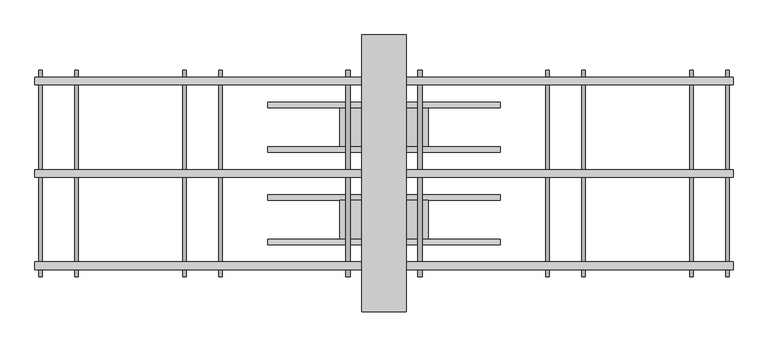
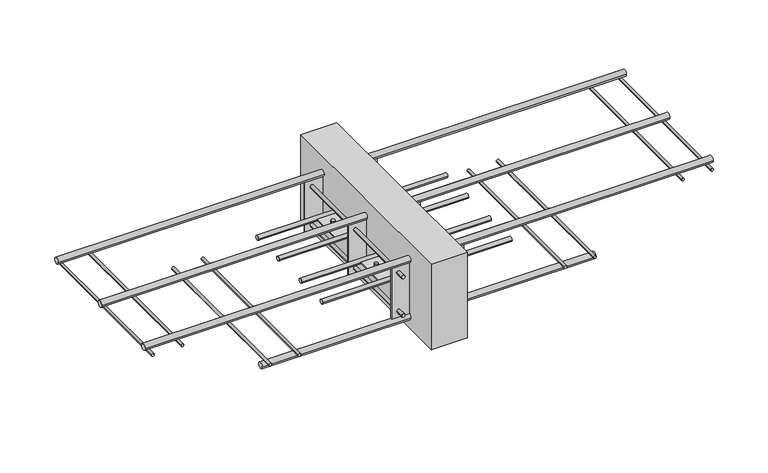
"""IFC4 building model written with IfcOpenShell, lengths in millimetres: fastener geometry, ACINOXplus_Typenreihe_K : KPC+ S2."""

from ifc_helpers import new_model, si_unit, point, frame, frame_2d, origin, place, context, project, spatial, polyline, circle_curve, trimmed, segment, composite_curve, outline, extrude, source, transform, mapped, element, save
from ifc_brep_helpers import plane_surface, cylinder_surface, advanced_brep


def fastener_ad586128(model_context):
    return source(origin(), model_context, "Body", "SolidModel", [
        extrude(outline(composite_curve([segment(trimmed(circle_curve(frame_2d((-123.3333333, -105.0)), 5.0), [point((-128.3333333, -105.0))], [point((-118.3333333, -105.0))], False, "CARTESIAN"), True, "CONTINUOUS"), segment(trimmed(circle_curve(frame_2d((-123.3333333, -105.0)), 5.0), [point((-118.3333333, -105.0))], [point((-128.3333333, -105.0))], False, "CARTESIAN"), True, "CONTINUOUS")], self_intersect=False)), frame((-210.0, 0.0, 0.0), z_axis=(1.0, 0.0, 0.0), x_axis=(0.0, 1.0, 0.0)), (0.0, 0.0, 1.0), 420.0),
        extrude(outline(composite_curve([segment(trimmed(circle_curve(frame_2d((-43.3333333, -105.0)), 5.0), [point((-48.3333333, -105.0))], [point((-38.3333333, -105.0))], False, "CARTESIAN"), True, "CONTINUOUS"), segment(trimmed(circle_curve(frame_2d((-43.3333333, -105.0)), 5.0), [point((-38.3333333, -105.0))], [point((-48.3333333, -105.0))], False, "CARTESIAN"), True, "CONTINUOUS")], self_intersect=False)), frame((-210.0, 0.0, 0.0), z_axis=(1.0, 0.0, 0.0), x_axis=(0.0, 1.0, 0.0)), (0.0, 0.0, 1.0), 420.0),
        advanced_brep(
        [(-69.0, -83.3333333, -90.0), (-61.0, -83.3333333, -90.0), (61.0, -83.3333333, -90.0), (69.0, -83.3333333, -90.0), (-69.0, -83.3333333, -120.0), (-61.0, -83.3333333, -120.0), (61.0, -83.3333333, -120.0), (69.0, -83.3333333, -120.0), (-69.0, -83.3333333, -103.5), (-61.0, -83.3333333, -103.5), (-61.0, -83.3333333, -106.5), (-69.0, -83.3333333, -106.5), (61.0, -83.3333333, -103.5), (69.0, -83.3333333, -103.5), (69.0, -83.3333333, -106.5), (61.0, -83.3333333, -106.5), (80.0, -48.3333333, -103.5), (-80.0, -48.3333333, -103.5), (-80.0, -118.3333333, -103.5), (80.0, -118.3333333, -103.5), (80.0, -48.3333333, -106.5), (80.0, -118.3333333, -106.5), (-80.0, -118.3333333, -106.5), (-80.0, -48.3333333, -106.5)],
        [
            (0, 1, circle_curve(frame((-65.0, -83.3333333, -90.0), z_axis=(0.0, 0.0, 1.0), x_axis=(1.0, 0.0, 0.0)), 4.0)),
            (1, 0, circle_curve(frame((-65.0, -83.3333333, -90.0), z_axis=(0.0, 0.0, 1.0), x_axis=(1.0, 0.0, 0.0)), 4.0)),
            (2, 3, circle_curve(frame((65.0, -83.3333333, -90.0), z_axis=(0.0, 0.0, 1.0), x_axis=(1.0, 0.0, 0.0)), 4.0)),
            (3, 2, circle_curve(frame((65.0, -83.3333333, -90.0), z_axis=(0.0, 0.0, 1.0), x_axis=(1.0, 0.0, 0.0)), 4.0)),
            (4, 5, circle_curve(frame((-65.0, -83.3333333, -120.0), z_axis=(0.0, 0.0, -1.0), x_axis=(1.0, 0.0, 0.0)), 4.0)),
            (5, 4, circle_curve(frame((-65.0, -83.3333333, -120.0), z_axis=(0.0, 0.0, -1.0), x_axis=(1.0, 0.0, 0.0)), 4.0)),
            (6, 7, circle_curve(frame((65.0, -83.3333333, -120.0), z_axis=(0.0, 0.0, -1.0), x_axis=(1.0, 0.0, 0.0)), 4.0)),
            (7, 6, circle_curve(frame((65.0, -83.3333333, -120.0), z_axis=(0.0, 0.0, -1.0), x_axis=(1.0, 0.0, 0.0)), 4.0)),
            (0, 8),
            (8, 9, circle_curve(frame((-65.0, -83.3333333, -103.5), z_axis=(0.0, 0.0, 1.0), x_axis=(1.0, 0.0, 0.0)), 4.0)),
            (9, 1),
            (5, 10),
            (10, 11, circle_curve(frame((-65.0, -83.3333333, -106.5), z_axis=(0.0, 0.0, -1.0), x_axis=(1.0, 0.0, 0.0)), 4.0)),
            (11, 4),
            (9, 8, circle_curve(frame((-65.0, -83.3333333, -103.5), z_axis=(0.0, 0.0, 1.0), x_axis=(1.0, 0.0, 0.0)), 4.0)),
            (11, 10, circle_curve(frame((-65.0, -83.3333333, -106.5), z_axis=(0.0, 0.0, -1.0), x_axis=(1.0, 0.0, 0.0)), 4.0)),
            (2, 12),
            (12, 13, circle_curve(frame((65.0, -83.3333333, -103.5), z_axis=(0.0, 0.0, 1.0), x_axis=(1.0, 0.0, 0.0)), 4.0)),
            (13, 3),
            (7, 14),
            (14, 15, circle_curve(frame((65.0, -83.3333333, -106.5), z_axis=(0.0, 0.0, -1.0), x_axis=(1.0, 0.0, 0.0)), 4.0)),
            (15, 6),
            (13, 12, circle_curve(frame((65.0, -83.3333333, -103.5), z_axis=(0.0, 0.0, 1.0), x_axis=(1.0, 0.0, 0.0)), 4.0)),
            (15, 14, circle_curve(frame((65.0, -83.3333333, -106.5), z_axis=(0.0, 0.0, -1.0), x_axis=(1.0, 0.0, 0.0)), 4.0)),
            (16, 17),
            (17, 18),
            (18, 19),
            (19, 16),
            (20, 21),
            (21, 22),
            (22, 23),
            (23, 20),
            (16, 20),
            (23, 17),
            (22, 18),
            (21, 19),
        ],
        [
            plane_surface(frame((-61.0, -83.3333333, -90.0), z_axis=(0.0, 0.0, 1.0), x_axis=(0.0, 1.0, 0.0))),
            plane_surface(frame((-61.0, -83.3333333, -120.0), z_axis=(0.0, 0.0, -1.0), x_axis=(0.0, -1.0, 0.0))),
            cylinder_surface(frame((-65.0, -83.3333333, -120.0), z_axis=(0.0, 0.0, 1.0), x_axis=(1.0, 0.0, 0.0)), 4.0),
            cylinder_surface(frame((65.0, -83.3333333, -105.0), z_axis=(0.0, 0.0, 1.0), x_axis=(1.0, 0.0, 0.0)), 4.0),
            plane_surface(frame((-80.0, -48.3333333, -103.5), z_axis=(0.0, 0.0, 1.0), x_axis=(-1.0, 0.0, 0.0))),
            plane_surface(frame((-80.0, -48.3333333, -106.5), z_axis=(0.0, 0.0, -1.0), x_axis=(1.0, 0.0, 0.0))),
            plane_surface(frame((80.0, -48.3333333, -103.5), z_axis=(0.0, 1.0, 0.0), x_axis=(0.0, 0.0, -1.0))),
            plane_surface(frame((-80.0, -48.3333333, -103.5), z_axis=(-1.0, 0.0, 0.0), x_axis=(0.0, 0.0, -1.0))),
            plane_surface(frame((-80.0, -118.3333333, -103.5), z_axis=(0.0, -1.0, 0.0), x_axis=(0.0, 0.0, -1.0))),
            plane_surface(frame((80.0, -118.3333333, -103.5), z_axis=(1.0, 0.0, 0.0), x_axis=(0.0, 0.0, -1.0))),
        ],
        [
            (0, [[1, 2]]),
            (0, [[3, 4]]),
            (1, [[5, 6]]),
            (1, [[7, 8]]),
            (2, [[-1, 9, 10, 11]]),
            (2, [[-6, 12, 13, 14]]),
            (2, [[-2, -11, 15, -9]]),
            (2, [[-5, -14, 16, -12]]),
            (3, [[-3, 17, 18, 19]]),
            (3, [[-8, 20, 21, 22]]),
            (3, [[-4, -19, 23, -17]]),
            (3, [[-7, -22, 24, -20]]),
            (4, [[25, 26, 27, 28], [-10, -15], [-18, -23]]),
            (5, [[29, 30, 31, 32], [-13, -16], [-21, -24]]),
            (6, [[-25, 33, -32, 34]]),
            (7, [[-26, -34, -31, 35]]),
            (8, [[-27, -35, -30, 36]]),
            (9, [[-28, -36, -29, -33]]),
        ],
    ),
        extrude(outline(composite_curve([segment(trimmed(circle_curve(frame_2d((43.3333333, -105.0)), 5.0), [point((38.3333333, -105.0))], [point((48.3333333, -105.0))], False, "CARTESIAN"), True, "CONTINUOUS"), segment(trimmed(circle_curve(frame_2d((43.3333333, -105.0)), 5.0), [point((48.3333333, -105.0))], [point((38.3333333, -105.0))], False, "CARTESIAN"), True, "CONTINUOUS")], self_intersect=False)), frame((-210.0, 0.0, 0.0), z_axis=(1.0, 0.0, 0.0), x_axis=(0.0, 1.0, 0.0)), (0.0, 0.0, 1.0), 420.0),
        extrude(outline(composite_curve([segment(trimmed(circle_curve(frame_2d((123.3333333, -105.0)), 5.0), [point((118.3333333, -105.0))], [point((128.3333333, -105.0))], False, "CARTESIAN"), True, "CONTINUOUS"), segment(trimmed(circle_curve(frame_2d((123.3333333, -105.0)), 5.0), [point((128.3333333, -105.0))], [point((118.3333333, -105.0))], False, "CARTESIAN"), True, "CONTINUOUS")], self_intersect=False)), frame((-210.0, 0.0, 0.0), z_axis=(1.0, 0.0, 0.0), x_axis=(0.0, 1.0, 0.0)), (0.0, 0.0, 1.0), 420.0),
        advanced_brep(
        [(-69.0, 83.3333333, -90.0), (-61.0, 83.3333333, -90.0), (61.0, 83.3333333, -90.0), (69.0, 83.3333333, -90.0), (-69.0, 83.3333333, -120.0), (-61.0, 83.3333333, -120.0), (61.0, 83.3333333, -120.0), (69.0, 83.3333333, -120.0), (-69.0, 83.3333333, -103.5), (-61.0, 83.3333333, -103.5), (-61.0, 83.3333333, -106.5), (-69.0, 83.3333333, -106.5), (61.0, 83.3333333, -103.5), (69.0, 83.3333333, -103.5), (69.0, 83.3333333, -106.5), (61.0, 83.3333333, -106.5), (80.0, 118.3333333, -103.5), (-80.0, 118.3333333, -103.5), (-80.0, 48.3333333, -103.5), (80.0, 48.3333333, -103.5), (80.0, 118.3333333, -106.5), (80.0, 48.3333333, -106.5), (-80.0, 48.3333333, -106.5), (-80.0, 118.3333333, -106.5)],
        [
            (0, 1, circle_curve(frame((-65.0, 83.3333333, -90.0), z_axis=(0.0, 0.0, 1.0), x_axis=(1.0, 0.0, 0.0)), 4.0)),
            (1, 0, circle_curve(frame((-65.0, 83.3333333, -90.0), z_axis=(0.0, 0.0, 1.0), x_axis=(1.0, 0.0, 0.0)), 4.0)),
            (2, 3, circle_curve(frame((65.0, 83.3333333, -90.0), z_axis=(0.0, 0.0, 1.0), x_axis=(1.0, 0.0, 0.0)), 4.0)),
            (3, 2, circle_curve(frame((65.0, 83.3333333, -90.0), z_axis=(0.0, 0.0, 1.0), x_axis=(1.0, 0.0, 0.0)), 4.0)),
            (4, 5, circle_curve(frame((-65.0, 83.3333333, -120.0), z_axis=(0.0, 0.0, -1.0), x_axis=(1.0, 0.0, 0.0)), 4.0)),
            (5, 4, circle_curve(frame((-65.0, 83.3333333, -120.0), z_axis=(0.0, 0.0, -1.0), x_axis=(1.0, 0.0, 0.0)), 4.0)),
            (6, 7, circle_curve(frame((65.0, 83.3333333, -120.0), z_axis=(0.0, 0.0, -1.0), x_axis=(1.0, 0.0, 0.0)), 4.0)),
            (7, 6, circle_curve(frame((65.0, 83.3333333, -120.0), z_axis=(0.0, 0.0, -1.0), x_axis=(1.0, 0.0, 0.0)), 4.0)),
            (0, 8),
            (8, 9, circle_curve(frame((-65.0, 83.3333333, -103.5), z_axis=(0.0, 0.0, 1.0), x_axis=(1.0, 0.0, 0.0)), 4.0)),
            (9, 1),
            (5, 10),
            (10, 11, circle_curve(frame((-65.0, 83.3333333, -106.5), z_axis=(0.0, 0.0, -1.0), x_axis=(1.0, 0.0, 0.0)), 4.0)),
            (11, 4),
            (9, 8, circle_curve(frame((-65.0, 83.3333333, -103.5), z_axis=(0.0, 0.0, 1.0), x_axis=(1.0, 0.0, 0.0)), 4.0)),
            (11, 10, circle_curve(frame((-65.0, 83.3333333, -106.5), z_axis=(0.0, 0.0, -1.0), x_axis=(1.0, 0.0, 0.0)), 4.0)),
            (2, 12),
            (12, 13, circle_curve(frame((65.0, 83.3333333, -103.5), z_axis=(0.0, 0.0, 1.0), x_axis=(1.0, 0.0, 0.0)), 4.0)),
            (13, 3),
            (7, 14),
            (14, 15, circle_curve(frame((65.0, 83.3333333, -106.5), z_axis=(0.0, 0.0, -1.0), x_axis=(1.0, 0.0, 0.0)), 4.0)),
            (15, 6),
            (13, 12, circle_curve(frame((65.0, 83.3333333, -103.5), z_axis=(0.0, 0.0, 1.0), x_axis=(1.0, 0.0, 0.0)), 4.0)),
            (15, 14, circle_curve(frame((65.0, 83.3333333, -106.5), z_axis=(0.0, 0.0, -1.0), x_axis=(1.0, 0.0, 0.0)), 4.0)),
            (16, 17),
            (17, 18),
            (18, 19),
            (19, 16),
            (20, 21),
            (21, 22),
            (22, 23),
            (23, 20),
            (16, 20),
            (23, 17),
            (22, 18),
            (21, 19),
        ],
        [
            plane_surface(frame((-61.0, 83.3333333, -90.0), z_axis=(0.0, 0.0, 1.0), x_axis=(0.0, 1.0, 0.0))),
            plane_surface(frame((-61.0, 83.3333333, -120.0), z_axis=(0.0, 0.0, -1.0), x_axis=(0.0, -1.0, 0.0))),
            cylinder_surface(frame((-65.0, 83.3333333, -120.0), z_axis=(0.0, 0.0, 1.0), x_axis=(1.0, 0.0, 0.0)), 4.0),
            cylinder_surface(frame((65.0, 83.3333333, -105.0), z_axis=(0.0, 0.0, 1.0), x_axis=(1.0, 0.0, 0.0)), 4.0),
            plane_surface(frame((-80.0, 118.3333333, -103.5), z_axis=(0.0, 0.0, 1.0), x_axis=(-1.0, 0.0, 0.0))),
            plane_surface(frame((-80.0, 118.3333333, -106.5), z_axis=(0.0, 0.0, -1.0), x_axis=(1.0, 0.0, 0.0))),
            plane_surface(frame((80.0, 118.3333333, -103.5), z_axis=(0.0, 1.0, 0.0), x_axis=(0.0, 0.0, -1.0))),
            plane_surface(frame((-80.0, 118.3333333, -103.5), z_axis=(-1.0, 0.0, 0.0), x_axis=(0.0, 0.0, -1.0))),
            plane_surface(frame((-80.0, 48.3333333, -103.5), z_axis=(0.0, -1.0, 0.0), x_axis=(0.0, 0.0, -1.0))),
            plane_surface(frame((80.0, 48.3333333, -103.5), z_axis=(1.0, 0.0, 0.0), x_axis=(0.0, 0.0, -1.0))),
        ],
        [
            (0, [[1, 2]]),
            (0, [[3, 4]]),
            (1, [[5, 6]]),
            (1, [[7, 8]]),
            (2, [[-1, 9, 10, 11]]),
            (2, [[-6, 12, 13, 14]]),
            (2, [[-2, -11, 15, -9]]),
            (2, [[-5, -14, 16, -12]]),
            (3, [[-3, 17, 18, 19]]),
            (3, [[-8, 20, 21, 22]]),
            (3, [[-4, -19, 23, -17]]),
            (3, [[-7, -22, 24, -20]]),
            (4, [[25, 26, 27, 28], [-10, -15], [-18, -23]]),
            (5, [[29, 30, 31, 32], [-13, -16], [-21, -24]]),
            (6, [[-25, 33, -32, 34]]),
            (7, [[-26, -34, -31, 35]]),
            (8, [[-27, -35, -30, 36]]),
            (9, [[-28, -36, -29, -33]]),
        ],
    ),
        extrude(outline(polyline([(40.0, 250.0), (40.0, -250.0), (-40.0, -250.0), (-40.0, 250.0), (40.0, 250.0)])), frame((0.0, 0.0, -200.0), z_axis=(0.0, 0.0, 1.0), x_axis=(1.0, 0.0, 0.0)), (0.0, 0.0, 1.0), 200.0),
        extrude(outline(polyline([(80.0, 1.5), (80.0, -1.5), (-80.0, -1.5), (-80.0, 1.5), (80.0, 1.5)])), frame((0.0, 0.0, -165.0), z_axis=(0.0, 0.0, 1.0), x_axis=(1.0, 0.0, 0.0)), (0.0, 0.0, 1.0), 120.0),
        extrude(outline(polyline([(80.0, -165.1666667), (80.0, -168.1666667), (-80.0, -168.1666667), (-80.0, -165.1666667), (80.0, -165.1666667)])), frame((0.0, 0.0, -165.0), z_axis=(0.0, 0.0, 1.0), x_axis=(1.0, 0.0, 0.0)), (0.0, 0.0, 1.0), 120.0),
        extrude(outline(polyline([(80.0, 168.1666667), (80.0, 165.1666667), (-80.0, 165.1666667), (-80.0, 168.1666667), (80.0, 168.1666667)])), frame((0.0, 0.0, -165.0), z_axis=(0.0, 0.0, 1.0), x_axis=(1.0, 0.0, 0.0)), (0.0, 0.0, 1.0), 120.0),
        extrude(outline(composite_curve([segment(trimmed(circle_curve(frame_2d((-150.0, -65.0)), 4.0), [point((-150.0, -69.0))], [point((-150.0, -61.0))], False, "CARTESIAN"), True, "CONTINUOUS"), segment(trimmed(circle_curve(frame_2d((-150.0, -65.0)), 4.0), [point((-150.0, -61.0))], [point((-150.0, -69.0))], False, "CARTESIAN"), True, "CONTINUOUS")], self_intersect=False)), frame((0.0, 168.1666667, 0.0), z_axis=(0.0, 1.0, 0.0), x_axis=(0.0, 0.0, 1.0)), (0.0, 0.0, 1.0), 18.5),
        extrude(outline(composite_curve([segment(trimmed(circle_curve(frame_2d((-150.0, -65.0)), 4.0), [point((-150.0, -61.0))], [point((-150.0, -69.0))], False, "CARTESIAN"), True, "CONTINUOUS"), segment(trimmed(circle_curve(frame_2d((-150.0, -65.0)), 4.0), [point((-150.0, -69.0))], [point((-150.0, -61.0))], False, "CARTESIAN"), True, "CONTINUOUS")], self_intersect=False)), frame((0.0, -186.6666667, 0.0), z_axis=(0.0, 1.0, 0.0), x_axis=(0.0, 0.0, 1.0)), (0.0, 0.0, 1.0), 18.5),
        extrude(outline(composite_curve([segment(trimmed(circle_curve(frame_2d((-150.0, -65.0)), 4.0), [point((-150.0, -69.0))], [point((-150.0, -61.0))], False, "CARTESIAN"), True, "CONTINUOUS"), segment(trimmed(circle_curve(frame_2d((-150.0, -65.0)), 4.0), [point((-150.0, -61.0))], [point((-150.0, -69.0))], False, "CARTESIAN"), True, "CONTINUOUS")], self_intersect=False)), frame((0.0, -165.1666667, 0.0), z_axis=(0.0, 1.0, 0.0), x_axis=(0.0, 0.0, 1.0)), (0.0, 0.0, 1.0), 163.6666667),
        extrude(outline(composite_curve([segment(trimmed(circle_curve(frame_2d((-150.0, -65.0)), 4.0), [point((-150.0, -69.0))], [point((-150.0, -61.0))], False, "CARTESIAN"), True, "CONTINUOUS"), segment(trimmed(circle_curve(frame_2d((-150.0, -65.0)), 4.0), [point((-150.0, -61.0))], [point((-150.0, -69.0))], False, "CARTESIAN"), True, "CONTINUOUS")], self_intersect=False)), frame((0.0, 1.5, 0.0), z_axis=(0.0, 1.0, 0.0), x_axis=(0.0, 0.0, 1.0)), (0.0, 0.0, 1.0), 163.6666667),
        extrude(outline(composite_curve([segment(trimmed(circle_curve(frame_2d((-150.0, 65.0)), 4.0), [point((-150.0, 61.0))], [point((-150.0, 69.0))], False, "CARTESIAN"), True, "CONTINUOUS"), segment(trimmed(circle_curve(frame_2d((-150.0, 65.0)), 4.0), [point((-150.0, 69.0))], [point((-150.0, 61.0))], False, "CARTESIAN"), True, "CONTINUOUS")], self_intersect=False)), frame((0.0, 168.1666667, 0.0), z_axis=(0.0, 1.0, 0.0), x_axis=(0.0, 0.0, 1.0)), (0.0, 0.0, 1.0), 18.5),
        extrude(outline(composite_curve([segment(trimmed(circle_curve(frame_2d((-150.0, 65.0)), 4.0), [point((-150.0, 69.0))], [point((-150.0, 61.0))], False, "CARTESIAN"), True, "CONTINUOUS"), segment(trimmed(circle_curve(frame_2d((-150.0, 65.0)), 4.0), [point((-150.0, 61.0))], [point((-150.0, 69.0))], False, "CARTESIAN"), True, "CONTINUOUS")], self_intersect=False)), frame((0.0, -186.6666667, 0.0), z_axis=(0.0, 1.0, 0.0), x_axis=(0.0, 0.0, 1.0)), (0.0, 0.0, 1.0), 18.5),
        extrude(outline(composite_curve([segment(trimmed(circle_curve(frame_2d((-150.0, 65.0)), 4.0), [point((-150.0, 61.0))], [point((-150.0, 69.0))], False, "CARTESIAN"), True, "CONTINUOUS"), segment(trimmed(circle_curve(frame_2d((-150.0, 65.0)), 4.0), [point((-150.0, 69.0))], [point((-150.0, 61.0))], False, "CARTESIAN"), True, "CONTINUOUS")], self_intersect=False)), frame((0.0, -165.1666667, 0.0), z_axis=(0.0, 1.0, 0.0), x_axis=(0.0, 0.0, 1.0)), (0.0, 0.0, 1.0), 163.6666667),
        extrude(outline(composite_curve([segment(trimmed(circle_curve(frame_2d((-150.0, 65.0)), 4.0), [point((-150.0, 61.0))], [point((-150.0, 69.0))], False, "CARTESIAN"), True, "CONTINUOUS"), segment(trimmed(circle_curve(frame_2d((-150.0, 65.0)), 4.0), [point((-150.0, 69.0))], [point((-150.0, 61.0))], False, "CARTESIAN"), True, "CONTINUOUS")], self_intersect=False)), frame((0.0, 1.5, 0.0), z_axis=(0.0, 1.0, 0.0), x_axis=(0.0, 0.0, 1.0)), (0.0, 0.0, 1.0), 163.6666667),
        extrude(outline(composite_curve([segment(trimmed(circle_curve(frame_2d((-60.0, -65.0)), 4.0), [point((-60.0, -69.0))], [point((-60.0, -61.0))], False, "CARTESIAN"), True, "CONTINUOUS"), segment(trimmed(circle_curve(frame_2d((-60.0, -65.0)), 4.0), [point((-60.0, -61.0))], [point((-60.0, -69.0))], False, "CARTESIAN"), True, "CONTINUOUS")], self_intersect=False)), frame((0.0, 168.1666667, 0.0), z_axis=(0.0, 1.0, 0.0), x_axis=(0.0, 0.0, 1.0)), (0.0, 0.0, 1.0), 18.5),
        extrude(outline(composite_curve([segment(trimmed(circle_curve(frame_2d((-60.0, -65.0)), 4.0), [point((-60.0, -61.0))], [point((-60.0, -69.0))], False, "CARTESIAN"), True, "CONTINUOUS"), segment(trimmed(circle_curve(frame_2d((-60.0, -65.0)), 4.0), [point((-60.0, -69.0))], [point((-60.0, -61.0))], False, "CARTESIAN"), True, "CONTINUOUS")], self_intersect=False)), frame((0.0, -186.6666667, 0.0), z_axis=(0.0, 1.0, 0.0), x_axis=(0.0, 0.0, 1.0)), (0.0, 0.0, 1.0), 18.5),
        extrude(outline(composite_curve([segment(trimmed(circle_curve(frame_2d((-60.0, -65.0)), 4.0), [point((-60.0, -69.0))], [point((-60.0, -61.0))], False, "CARTESIAN"), True, "CONTINUOUS"), segment(trimmed(circle_curve(frame_2d((-60.0, -65.0)), 4.0), [point((-60.0, -61.0))], [point((-60.0, -69.0))], False, "CARTESIAN"), True, "CONTINUOUS")], self_intersect=False)), frame((0.0, -165.1666667, 0.0), z_axis=(0.0, 1.0, 0.0), x_axis=(0.0, 0.0, 1.0)), (0.0, 0.0, 1.0), 163.6666667),
        extrude(outline(composite_curve([segment(trimmed(circle_curve(frame_2d((-60.0, -65.0)), 4.0), [point((-60.0, -69.0))], [point((-60.0, -61.0))], False, "CARTESIAN"), True, "CONTINUOUS"), segment(trimmed(circle_curve(frame_2d((-60.0, -65.0)), 4.0), [point((-60.0, -61.0))], [point((-60.0, -69.0))], False, "CARTESIAN"), True, "CONTINUOUS")], self_intersect=False)), frame((0.0, 1.5, 0.0), z_axis=(0.0, 1.0, 0.0), x_axis=(0.0, 0.0, 1.0)), (0.0, 0.0, 1.0), 163.6666667),
        extrude(outline(composite_curve([segment(trimmed(circle_curve(frame_2d((-60.0, 65.0)), 4.0), [point((-60.0, 61.0))], [point((-60.0, 69.0))], False, "CARTESIAN"), True, "CONTINUOUS"), segment(trimmed(circle_curve(frame_2d((-60.0, 65.0)), 4.0), [point((-60.0, 69.0))], [point((-60.0, 61.0))], False, "CARTESIAN"), True, "CONTINUOUS")], self_intersect=False)), frame((0.0, 168.1666667, 0.0), z_axis=(0.0, 1.0, 0.0), x_axis=(0.0, 0.0, 1.0)), (0.0, 0.0, 1.0), 18.5),
        extrude(outline(composite_curve([segment(trimmed(circle_curve(frame_2d((-60.0, 65.0)), 4.0), [point((-60.0, 69.0))], [point((-60.0, 61.0))], False, "CARTESIAN"), True, "CONTINUOUS"), segment(trimmed(circle_curve(frame_2d((-60.0, 65.0)), 4.0), [point((-60.0, 61.0))], [point((-60.0, 69.0))], False, "CARTESIAN"), True, "CONTINUOUS")], self_intersect=False)), frame((0.0, -186.6666667, 0.0), z_axis=(0.0, 1.0, 0.0), x_axis=(0.0, 0.0, 1.0)), (0.0, 0.0, 1.0), 18.5),
        extrude(outline(composite_curve([segment(trimmed(circle_curve(frame_2d((-60.0, 65.0)), 4.0), [point((-60.0, 61.0))], [point((-60.0, 69.0))], False, "CARTESIAN"), True, "CONTINUOUS"), segment(trimmed(circle_curve(frame_2d((-60.0, 65.0)), 4.0), [point((-60.0, 69.0))], [point((-60.0, 61.0))], False, "CARTESIAN"), True, "CONTINUOUS")], self_intersect=False)), frame((0.0, -165.1666667, 0.0), z_axis=(0.0, 1.0, 0.0), x_axis=(0.0, 0.0, 1.0)), (0.0, 0.0, 1.0), 163.6666667),
        extrude(outline(composite_curve([segment(trimmed(circle_curve(frame_2d((-60.0, 65.0)), 4.0), [point((-60.0, 61.0))], [point((-60.0, 69.0))], False, "CARTESIAN"), True, "CONTINUOUS"), segment(trimmed(circle_curve(frame_2d((-60.0, 65.0)), 4.0), [point((-60.0, 69.0))], [point((-60.0, 61.0))], False, "CARTESIAN"), True, "CONTINUOUS")], self_intersect=False)), frame((0.0, 1.5, 0.0), z_axis=(0.0, 1.0, 0.0), x_axis=(0.0, 0.0, 1.0)), (0.0, 0.0, 1.0), 163.6666667),
        extrude(outline(composite_curve([segment(trimmed(circle_curve(frame_2d((0.0, -172.0)), 7.0), [point((-7.0, -172.0))], [point((7.0, -172.0))], False, "CARTESIAN"), True, "CONTINUOUS"), segment(trimmed(circle_curve(frame_2d((0.0, -172.0)), 7.0), [point((7.0, -172.0))], [point((-7.0, -172.0))], False, "CARTESIAN"), True, "CONTINUOUS")], self_intersect=False)), frame((-370.0, 0.0, 0.0), z_axis=(1.0, 0.0, 0.0), x_axis=(0.0, 1.0, 0.0)), (0.0, 0.0, 1.0), 740.0),
        extrude(outline(composite_curve([segment(trimmed(circle_curve(frame_2d((166.6666667, -172.0)), 7.0), [point((159.6666667, -172.0))], [point((173.6666667, -172.0))], False, "CARTESIAN"), True, "CONTINUOUS"), segment(trimmed(circle_curve(frame_2d((166.6666667, -172.0)), 7.0), [point((173.6666667, -172.0))], [point((159.6666667, -172.0))], False, "CARTESIAN"), True, "CONTINUOUS")], self_intersect=False)), frame((-370.0, 0.0, 0.0), z_axis=(1.0, 0.0, 0.0), x_axis=(0.0, 1.0, 0.0)), (0.0, 0.0, 1.0), 740.0),
        extrude(outline(composite_curve([segment(trimmed(circle_curve(frame_2d((-166.6666667, -172.0)), 7.0), [point((-173.6666667, -172.0))], [point((-159.6666667, -172.0))], False, "CARTESIAN"), True, "CONTINUOUS"), segment(trimmed(circle_curve(frame_2d((-166.6666667, -172.0)), 7.0), [point((-159.6666667, -172.0))], [point((-173.6666667, -172.0))], False, "CARTESIAN"), True, "CONTINUOUS")], self_intersect=False)), frame((-370.0, 0.0, 0.0), z_axis=(1.0, 0.0, 0.0), x_axis=(0.0, 1.0, 0.0)), (0.0, 0.0, 1.0), 740.0),
        extrude(outline(composite_curve([segment(trimmed(circle_curve(frame_2d((0.0, -38.0)), 7.0), [point((-7.0, -38.0))], [point((7.0, -38.0))], False, "CARTESIAN"), True, "CONTINUOUS"), segment(trimmed(circle_curve(frame_2d((0.0, -38.0)), 7.0), [point((7.0, -38.0))], [point((-7.0, -38.0))], False, "CARTESIAN"), True, "CONTINUOUS")], self_intersect=False)), frame((-630.0, 0.0, 0.0), z_axis=(1.0, 0.0, 0.0), x_axis=(0.0, 1.0, 0.0)), (0.0, 0.0, 1.0), 1260.0),
        extrude(outline(composite_curve([segment(trimmed(circle_curve(frame_2d((166.6666667, -38.0)), 7.0), [point((159.6666667, -38.0))], [point((173.6666667, -38.0))], False, "CARTESIAN"), True, "CONTINUOUS"), segment(trimmed(circle_curve(frame_2d((166.6666667, -38.0)), 7.0), [point((173.6666667, -38.0))], [point((159.6666667, -38.0))], False, "CARTESIAN"), True, "CONTINUOUS")], self_intersect=False)), frame((-630.0, 0.0, 0.0), z_axis=(1.0, 0.0, 0.0), x_axis=(0.0, 1.0, 0.0)), (0.0, 0.0, 1.0), 1260.0),
        extrude(outline(composite_curve([segment(trimmed(circle_curve(frame_2d((-166.6666667, -38.0)), 7.0), [point((-173.6666667, -38.0))], [point((-159.6666667, -38.0))], False, "CARTESIAN"), True, "CONTINUOUS"), segment(trimmed(circle_curve(frame_2d((-166.6666667, -38.0)), 7.0), [point((-159.6666667, -38.0))], [point((-173.6666667, -38.0))], False, "CARTESIAN"), True, "CONTINUOUS")], self_intersect=False)), frame((-630.0, 0.0, 0.0), z_axis=(1.0, 0.0, 0.0), x_axis=(0.0, 1.0, 0.0)), (0.0, 0.0, 1.0), 1260.0),
        extrude(outline(composite_curve([segment(trimmed(circle_curve(frame_2d((-162.0, -360.0)), 3.0), [point((-162.0, -357.0))], [point((-162.0, -363.0))], False, "CARTESIAN"), True, "CONTINUOUS"), segment(trimmed(circle_curve(frame_2d((-162.0, -360.0)), 3.0), [point((-162.0, -363.0))], [point((-162.0, -357.0))], False, "CARTESIAN"), True, "CONTINUOUS")], self_intersect=False)), frame((0.0, -186.6666667, 0.0), z_axis=(0.0, 1.0, 0.0), x_axis=(0.0, 0.0, 1.0)), (0.0, 0.0, 1.0), 373.3333333),
        extrude(outline(composite_curve([segment(trimmed(circle_curve(frame_2d((-162.0, -295.0)), 3.0), [point((-162.0, -292.0))], [point((-162.0, -298.0))], False, "CARTESIAN"), True, "CONTINUOUS"), segment(trimmed(circle_curve(frame_2d((-162.0, -295.0)), 3.0), [point((-162.0, -298.0))], [point((-162.0, -292.0))], False, "CARTESIAN"), True, "CONTINUOUS")], self_intersect=False)), frame((0.0, -186.6666667, 0.0), z_axis=(0.0, 1.0, 0.0), x_axis=(0.0, 0.0, 1.0)), (0.0, 0.0, 1.0), 373.3333333),
        extrude(outline(composite_curve([segment(trimmed(circle_curve(frame_2d((-162.0, 295.0)), 3.0), [point((-162.0, 298.0))], [point((-162.0, 292.0))], False, "CARTESIAN"), True, "CONTINUOUS"), segment(trimmed(circle_curve(frame_2d((-162.0, 295.0)), 3.0), [point((-162.0, 292.0))], [point((-162.0, 298.0))], False, "CARTESIAN"), True, "CONTINUOUS")], self_intersect=False)), frame((0.0, -186.6666667, 0.0), z_axis=(0.0, 1.0, 0.0), x_axis=(0.0, 0.0, 1.0)), (0.0, 0.0, 1.0), 373.3333333),
        extrude(outline(composite_curve([segment(trimmed(circle_curve(frame_2d((-162.0, 360.0)), 3.0), [point((-162.0, 363.0))], [point((-162.0, 357.0))], False, "CARTESIAN"), True, "CONTINUOUS"), segment(trimmed(circle_curve(frame_2d((-162.0, 360.0)), 3.0), [point((-162.0, 357.0))], [point((-162.0, 363.0))], False, "CARTESIAN"), True, "CONTINUOUS")], self_intersect=False)), frame((0.0, -186.6666667, 0.0), z_axis=(0.0, 1.0, 0.0), x_axis=(0.0, 0.0, 1.0)), (0.0, 0.0, 1.0), 373.3333333),
        extrude(outline(composite_curve([segment(trimmed(circle_curve(frame_2d((-48.0, 555.0)), 3.0), [point((-48.0, 558.0))], [point((-48.0, 552.0))], False, "CARTESIAN"), True, "CONTINUOUS"), segment(trimmed(circle_curve(frame_2d((-48.0, 555.0)), 3.0), [point((-48.0, 552.0))], [point((-48.0, 558.0))], False, "CARTESIAN"), True, "CONTINUOUS")], self_intersect=False)), frame((0.0, -186.6666667, 0.0), z_axis=(0.0, 1.0, 0.0), x_axis=(0.0, 0.0, 1.0)), (0.0, 0.0, 1.0), 373.3333333),
        extrude(outline(composite_curve([segment(trimmed(circle_curve(frame_2d((-48.0, 620.0)), 3.0), [point((-48.0, 623.0))], [point((-48.0, 617.0))], False, "CARTESIAN"), True, "CONTINUOUS"), segment(trimmed(circle_curve(frame_2d((-48.0, 620.0)), 3.0), [point((-48.0, 617.0))], [point((-48.0, 623.0))], False, "CARTESIAN"), True, "CONTINUOUS")], self_intersect=False)), frame((0.0, -186.6666667, 0.0), z_axis=(0.0, 1.0, 0.0), x_axis=(0.0, 0.0, 1.0)), (0.0, 0.0, 1.0), 373.3333333),
        extrude(outline(composite_curve([segment(trimmed(circle_curve(frame_2d((-48.0, -620.0)), 3.0), [point((-48.0, -617.0))], [point((-48.0, -623.0))], False, "CARTESIAN"), True, "CONTINUOUS"), segment(trimmed(circle_curve(frame_2d((-48.0, -620.0)), 3.0), [point((-48.0, -623.0))], [point((-48.0, -617.0))], False, "CARTESIAN"), True, "CONTINUOUS")], self_intersect=False)), frame((0.0, -186.6666667, 0.0), z_axis=(0.0, 1.0, 0.0), x_axis=(0.0, 0.0, 1.0)), (0.0, 0.0, 1.0), 373.3333333),
        extrude(outline(composite_curve([segment(trimmed(circle_curve(frame_2d((-48.0, -555.0)), 3.0), [point((-48.0, -552.0))], [point((-48.0, -558.0))], False, "CARTESIAN"), True, "CONTINUOUS"), segment(trimmed(circle_curve(frame_2d((-48.0, -555.0)), 3.0), [point((-48.0, -558.0))], [point((-48.0, -552.0))], False, "CARTESIAN"), True, "CONTINUOUS")], self_intersect=False)), frame((0.0, -186.6666667, 0.0), z_axis=(0.0, 1.0, 0.0), x_axis=(0.0, 0.0, 1.0)), (0.0, 0.0, 1.0), 373.3333333),
    ])


if __name__ == "__main__":
    model = new_model("IFC4")
    model_context = context("Model", 3, world=origin())
    ifc_project = project(units=[si_unit("LENGTHUNIT", "METRE", prefix="MILLI")], contexts=[model_context])
    site = spatial("IfcSite", under=ifc_project)
    building = spatial("IfcBuilding", under=site)
    placement = place(None, origin())
    fastener_shape = fastener_ad586128(model_context)
    element("IfcFastener", 1, ObjectType="ACINOXplus_Typenreihe_K : KPC+ S2", at=placement, inside=building, context=model_context, shape_type="MappedRepresentation", body=[
        mapped(fastener_shape, transform((0.0, 0.0, 0.0), x_axis=(1.0, 0.0, 0.0), y_axis=(0.0, 1.0, 0.0), z_axis=(0.0, 0.0, 1.0))),
    ])
    save(model, "model.ifc")
